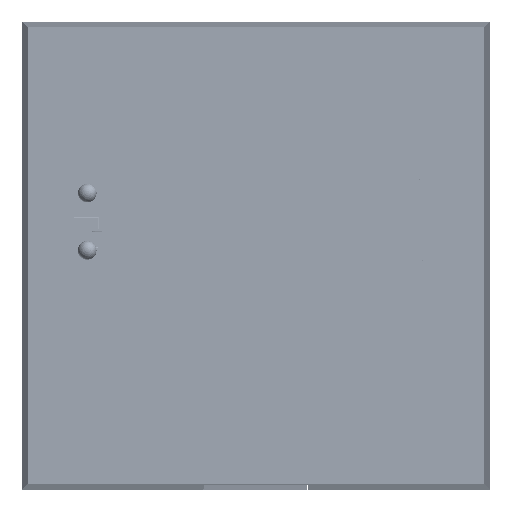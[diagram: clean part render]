
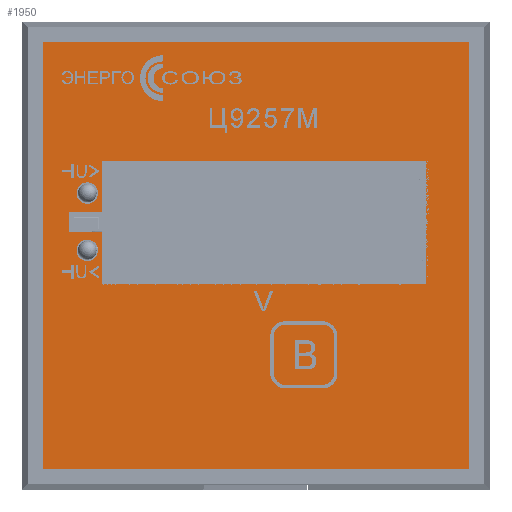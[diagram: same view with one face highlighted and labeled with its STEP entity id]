
A CAD part, top view. The second image highlights one B-rep face of the part: STEP entity #1950.
In plain terms, the highlighted planar face has unit normal (0, 0, 1).
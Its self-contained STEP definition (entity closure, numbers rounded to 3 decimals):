
#10 = DIRECTION ( 'NONE',  ( 1., 0., 0. ) ) ;
#271 = LINE ( 'NONE', #18281, #53920 ) ;
#565 = EDGE_CURVE ( 'NONE', #46759, #20681, #58979, .T. ) ;
#592 = EDGE_CURVE ( 'NONE', #47541, #45105, #67213, .T. ) ;
#1192 = CARTESIAN_POINT ( 'NONE',  ( 32.843, 32.843, 7.25 ) ) ;
#1950 = ADVANCED_FACE ( 'NONE', ( #17861, #6121, #77742, #66247 ), #13525, .T. ) ;
#2511 = DIRECTION ( 'NONE',  ( 0., -1., 0. ) ) ;
#2519 = VERTEX_POINT ( 'NONE', #18074 ) ;
#3325 = VECTOR ( 'NONE', #5393, 1000. ) ;
#3729 = CIRCLE ( 'NONE', #47573, 1.653 ) ;
#5393 = DIRECTION ( 'NONE',  ( 0., -1., 0. ) ) ;
#5545 = VERTEX_POINT ( 'NONE', #34174 ) ;
#5910 = CARTESIAN_POINT ( 'NONE',  ( -28.739, 3.617, 7.25 ) ) ;
#6121 = FACE_BOUND ( 'NONE', #43376, .T. ) ;
#6283 = AXIS2_PLACEMENT_3D ( 'NONE', #67841, #24593, #31229 ) ;
#6540 = AXIS2_PLACEMENT_3D ( 'NONE', #29553, #35438, #18163 ) ;
#6569 = CIRCLE ( 'NONE', #21633, 1.653 ) ;
#6628 = DIRECTION ( 'NONE',  ( 0., 0., 1. ) ) ;
#7320 = DIRECTION ( 'NONE',  ( 0., 1., 0. ) ) ;
#7661 = DIRECTION ( 'NONE',  ( 0., 0., 1. ) ) ;
#8644 = VECTOR ( 'NONE', #37262, 1000. ) ;
#8752 = LINE ( 'NONE', #51152, #47957 ) ;
#9189 = VERTEX_POINT ( 'NONE', #33336 ) ;
#9427 = EDGE_CURVE ( 'NONE', #69108, #5545, #71538, .T. ) ;
#9532 = DIRECTION ( 'NONE',  ( -1., 0., 0. ) ) ;
#10050 = EDGE_CURVE ( 'NONE', #20203, #47541, #13480, .T. ) ;
#10092 = VECTOR ( 'NONE', #75004, 1000. ) ;
#10857 = CARTESIAN_POINT ( 'NONE',  ( -23.659, 3.617, 7.25 ) ) ;
#11347 = EDGE_LOOP ( 'NONE', ( #19900, #21632, #55355, #44431, #46966, #70370, #55819, #37460 ) ) ;
#13480 = LINE ( 'NONE', #49621, #65609 ) ;
#13525 = PLANE ( 'NONE',  #15378 ) ;
#14702 = DIRECTION ( 'NONE',  ( -1., 0., 0. ) ) ;
#15082 = CARTESIAN_POINT ( 'NONE',  ( -23.659, 6.729, 7.25 ) ) ;
#15251 = VERTEX_POINT ( 'NONE', #1192 ) ;
#15378 = AXIS2_PLACEMENT_3D ( 'NONE', #53629, #7661, #59983 ) ;
#15519 = ORIENTED_EDGE ( 'NONE', *, *, #22329, .T. ) ;
#16511 = VERTEX_POINT ( 'NONE', #57692 ) ;
#16668 = DIRECTION ( 'NONE',  ( 1., 0., 0. ) ) ;
#16836 = LINE ( 'NONE', #60474, #67149 ) ;
#17343 = DIRECTION ( 'NONE',  ( -1., 0., 0. ) ) ;
#17844 = CARTESIAN_POINT ( 'NONE',  ( -23.659, -4.33, 7.25 ) ) ;
#17861 = FACE_BOUND ( 'NONE', #11347, .T. ) ;
#18074 = CARTESIAN_POINT ( 'NONE',  ( -23.659, 14.589, 7.25 ) ) ;
#18163 = DIRECTION ( 'NONE',  ( 1., 0., 0. ) ) ;
#18281 = CARTESIAN_POINT ( 'NONE',  ( 26.208, 14.589, 7.25 ) ) ;
#18463 = CARTESIAN_POINT ( 'NONE',  ( -32.843, 32.843, 7.25 ) ) ;
#19060 = EDGE_CURVE ( 'NONE', #45105, #15251, #16836, .T. ) ;
#19900 = ORIENTED_EDGE ( 'NONE', *, *, #43354, .F. ) ;
#19997 = CARTESIAN_POINT ( 'NONE',  ( 32.843, -32.843, 7.25 ) ) ;
#20064 = CIRCLE ( 'NONE', #6283, 1.653 ) ;
#20179 = CARTESIAN_POINT ( 'NONE',  ( -27.621, 9.659, 7.25 ) ) ;
#20203 = VERTEX_POINT ( 'NONE', #18463 ) ;
#20681 = VERTEX_POINT ( 'NONE', #30831 ) ;
#21388 = ORIENTED_EDGE ( 'NONE', *, *, #19060, .T. ) ;
#21632 = ORIENTED_EDGE ( 'NONE', *, *, #73992, .F. ) ;
#21633 = AXIS2_PLACEMENT_3D ( 'NONE', #46485, #28083, #16668 ) ;
#22329 = EDGE_CURVE ( 'NONE', #15251, #20203, #58646, .T. ) ;
#23656 = CARTESIAN_POINT ( 'NONE',  ( -32.843, 32.843, 7.25 ) ) ;
#24593 = DIRECTION ( 'NONE',  ( 0., 0., 1. ) ) ;
#24652 = ORIENTED_EDGE ( 'NONE', *, *, #40794, .F. ) ;
#24851 = VECTOR ( 'NONE', #17343, 1000. ) ;
#26403 = CARTESIAN_POINT ( 'NONE',  ( -23.659, 6.729, 7.25 ) ) ;
#27204 = ORIENTED_EDGE ( 'NONE', *, *, #70385, .F. ) ;
#27588 = LINE ( 'NONE', #76037, #60501 ) ;
#28083 = DIRECTION ( 'NONE',  ( 0., 0., 1. ) ) ;
#28720 = VECTOR ( 'NONE', #10, 1000. ) ;
#29347 = ORIENTED_EDGE ( 'NONE', *, *, #10050, .T. ) ;
#29553 = CARTESIAN_POINT ( 'NONE',  ( -25.968, 9.659, 7.25 ) ) ;
#29903 = ORIENTED_EDGE ( 'NONE', *, *, #592, .T. ) ;
#30831 = CARTESIAN_POINT ( 'NONE',  ( -23.659, 3.617, 7.25 ) ) ;
#31229 = DIRECTION ( 'NONE',  ( 1., 0., 0. ) ) ;
#31519 = DIRECTION ( 'NONE',  ( 0., -1., 0. ) ) ;
#33336 = CARTESIAN_POINT ( 'NONE',  ( -28.739, 6.729, 7.25 ) ) ;
#33947 = VERTEX_POINT ( 'NONE', #47069 ) ;
#33960 = LINE ( 'NONE', #58003, #10092 ) ;
#34174 = CARTESIAN_POINT ( 'NONE',  ( 26.208, -4.33, 7.25 ) ) ;
#35438 = DIRECTION ( 'NONE',  ( 0., 0., 1. ) ) ;
#36879 = CARTESIAN_POINT ( 'NONE',  ( -32.843, -32.843, 7.25 ) ) ;
#37262 = DIRECTION ( 'NONE',  ( 1., 0., 0. ) ) ;
#37460 = ORIENTED_EDGE ( 'NONE', *, *, #63929, .F. ) ;
#39347 = CARTESIAN_POINT ( 'NONE',  ( -24.315, 9.659, 7.25 ) ) ;
#40794 = EDGE_CURVE ( 'NONE', #74718, #77627, #3729, .T. ) ;
#41035 = ORIENTED_EDGE ( 'NONE', *, *, #44441, .F. ) ;
#41206 = VECTOR ( 'NONE', #14702, 1000. ) ;
#41555 = DIRECTION ( 'NONE',  ( 0., 1., 0. ) ) ;
#41572 = DIRECTION ( 'NONE',  ( 1., 0., 0. ) ) ;
#41650 = EDGE_CURVE ( 'NONE', #9189, #46759, #33960, .T. ) ;
#43354 = EDGE_CURVE ( 'NONE', #2519, #61231, #8752, .T. ) ;
#43376 = EDGE_LOOP ( 'NONE', ( #41035, #74209 ) ) ;
#44127 = CIRCLE ( 'NONE', #6540, 1.653 ) ;
#44431 = ORIENTED_EDGE ( 'NONE', *, *, #9427, .F. ) ;
#44441 = EDGE_CURVE ( 'NONE', #16511, #33947, #6569, .T. ) ;
#45105 = VERTEX_POINT ( 'NONE', #19997 ) ;
#45701 = LINE ( 'NONE', #15082, #41206 ) ;
#46485 = CARTESIAN_POINT ( 'NONE',  ( -25.968, 0.846, 7.25 ) ) ;
#46759 = VERTEX_POINT ( 'NONE', #64003 ) ;
#46966 = ORIENTED_EDGE ( 'NONE', *, *, #49065, .F. ) ;
#47069 = CARTESIAN_POINT ( 'NONE',  ( -27.621, 0.846, 7.25 ) ) ;
#47541 = VERTEX_POINT ( 'NONE', #73941 ) ;
#47573 = AXIS2_PLACEMENT_3D ( 'NONE', #60491, #6628, #41572 ) ;
#47957 = VECTOR ( 'NONE', #2511, 1000. ) ;
#49065 = EDGE_CURVE ( 'NONE', #20681, #69108, #55884, .T. ) ;
#49621 = CARTESIAN_POINT ( 'NONE',  ( -32.843, 32.843, 7.25 ) ) ;
#49636 = EDGE_LOOP ( 'NONE', ( #27204, #24652 ) ) ;
#51152 = CARTESIAN_POINT ( 'NONE',  ( -23.659, 14.589, 7.25 ) ) ;
#53032 = DIRECTION ( 'NONE',  ( 1., 0., 0. ) ) ;
#53629 = CARTESIAN_POINT ( 'NONE',  ( -32.843, -32.843, 7.25 ) ) ;
#53776 = CARTESIAN_POINT ( 'NONE',  ( -23.659, -4.33, 7.25 ) ) ;
#53920 = VECTOR ( 'NONE', #7320, 1000. ) ;
#55355 = ORIENTED_EDGE ( 'NONE', *, *, #66412, .F. ) ;
#55819 = ORIENTED_EDGE ( 'NONE', *, *, #41650, .F. ) ;
#55884 = LINE ( 'NONE', #10857, #3325 ) ;
#57692 = CARTESIAN_POINT ( 'NONE',  ( -24.315, 0.846, 7.25 ) ) ;
#58003 = CARTESIAN_POINT ( 'NONE',  ( -28.739, 6.729, 7.25 ) ) ;
#58646 = LINE ( 'NONE', #23656, #24851 ) ;
#58958 = CARTESIAN_POINT ( 'NONE',  ( 26.208, 14.589, 7.25 ) ) ;
#58979 = LINE ( 'NONE', #5910, #65465 ) ;
#59983 = DIRECTION ( 'NONE',  ( 1., 0., 0. ) ) ;
#60474 = CARTESIAN_POINT ( 'NONE',  ( 32.843, 32.843, 7.25 ) ) ;
#60491 = CARTESIAN_POINT ( 'NONE',  ( -25.968, 9.659, 7.25 ) ) ;
#60501 = VECTOR ( 'NONE', #9532, 1000. ) ;
#61231 = VERTEX_POINT ( 'NONE', #26403 ) ;
#63929 = EDGE_CURVE ( 'NONE', #61231, #9189, #45701, .T. ) ;
#64003 = CARTESIAN_POINT ( 'NONE',  ( -28.739, 3.617, 7.25 ) ) ;
#65465 = VECTOR ( 'NONE', #53032, 1000. ) ;
#65609 = VECTOR ( 'NONE', #31519, 1000. ) ;
#66247 = FACE_OUTER_BOUND ( 'NONE', #76538, .T. ) ;
#66387 = EDGE_CURVE ( 'NONE', #33947, #16511, #20064, .T. ) ;
#66412 = EDGE_CURVE ( 'NONE', #5545, #67512, #271, .T. ) ;
#67149 = VECTOR ( 'NONE', #41555, 1000. ) ;
#67213 = LINE ( 'NONE', #36879, #8644 ) ;
#67512 = VERTEX_POINT ( 'NONE', #58958 ) ;
#67841 = CARTESIAN_POINT ( 'NONE',  ( -25.968, 0.846, 7.25 ) ) ;
#69108 = VERTEX_POINT ( 'NONE', #17844 ) ;
#70370 = ORIENTED_EDGE ( 'NONE', *, *, #565, .F. ) ;
#70385 = EDGE_CURVE ( 'NONE', #77627, #74718, #44127, .T. ) ;
#71538 = LINE ( 'NONE', #53776, #28720 ) ;
#73941 = CARTESIAN_POINT ( 'NONE',  ( -32.843, -32.843, 7.25 ) ) ;
#73992 = EDGE_CURVE ( 'NONE', #67512, #2519, #27588, .T. ) ;
#74209 = ORIENTED_EDGE ( 'NONE', *, *, #66387, .F. ) ;
#74718 = VERTEX_POINT ( 'NONE', #20179 ) ;
#75004 = DIRECTION ( 'NONE',  ( 0., -1., 0. ) ) ;
#76037 = CARTESIAN_POINT ( 'NONE',  ( -23.659, 14.589, 7.25 ) ) ;
#76538 = EDGE_LOOP ( 'NONE', ( #29347, #29903, #21388, #15519 ) ) ;
#77627 = VERTEX_POINT ( 'NONE', #39347 ) ;
#77742 = FACE_BOUND ( 'NONE', #49636, .T. ) ;
